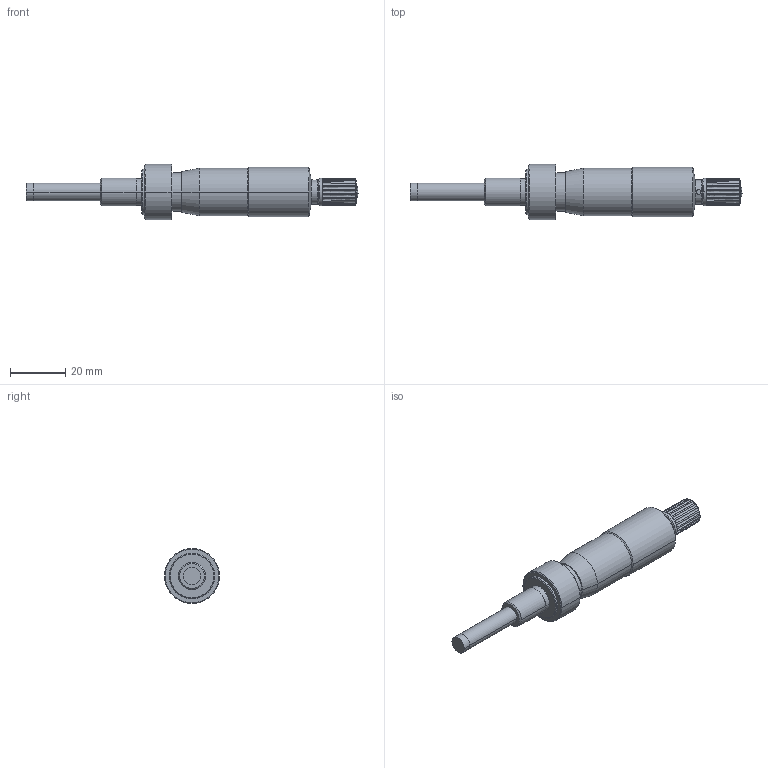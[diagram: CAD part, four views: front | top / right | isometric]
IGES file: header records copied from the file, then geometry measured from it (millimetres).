
Start section: Elysium IGES Interface
Global section: file name: 69HR:\01_商品設計部\01_MK外ﾃｰﾏ(U)\15_MH_3D\IGESﾌｧｲﾙ\150-209_MHN1-25L.igs; native system: Creo Elements/Direct Modeling 18.1B  29-Sep-2012; preprocessor: Creo Element/Direct IGES_3D V2.2; author: Unknown; organization: Unknown; date: 20140624.083754; units: millimetre
Bounding box: 120.55 x 20 x 20 mm (x, y, z)
Volume: 18218.7 mm3; surface area: 5773.5 mm2
Topology: 1 solids, 1 shells, 119 faces, 295 edges, 188 vertices
Faces by surface type: bspline 119
